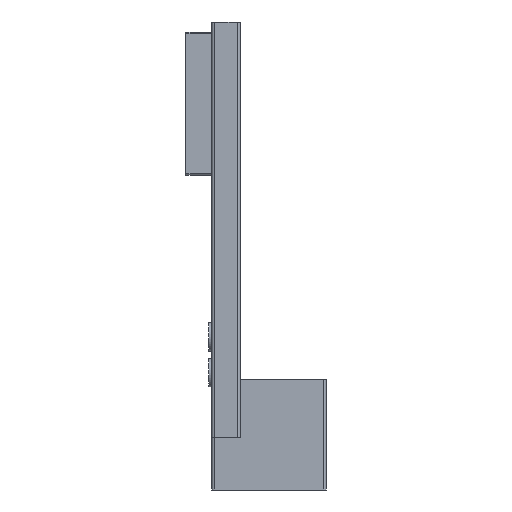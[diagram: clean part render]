
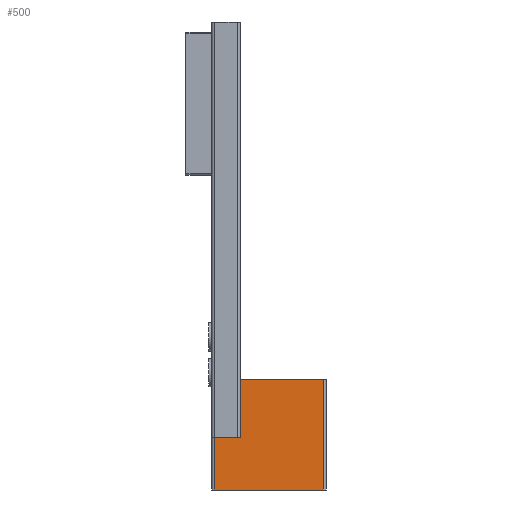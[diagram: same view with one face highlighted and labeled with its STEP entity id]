
A CAD part, left-side view. The second image highlights one B-rep face of the part: STEP entity #500.
In plain terms, the highlighted planar face has unit normal (-1, 0, 0).
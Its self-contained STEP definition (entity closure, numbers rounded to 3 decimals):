
#24 = VERTEX_POINT('',#25);
#25 = CARTESIAN_POINT('',(-32.,14.,17.));
#72 = VERTEX_POINT('',#73);
#73 = CARTESIAN_POINT('',(-32.,14.,21.));
#79 = EDGE_CURVE('',#72,#24,#80,.T.);
#80 = LINE('',#81,#82);
#81 = CARTESIAN_POINT('',(-32.,14.,15.15));
#82 = VECTOR('',#83,1.);
#83 = DIRECTION('',(0.,0.,-1.));
#431 = EDGE_CURVE('',#24,#432,#434,.T.);
#432 = VERTEX_POINT('',#433);
#433 = CARTESIAN_POINT('',(-32.,15.8,17.));
#434 = LINE('',#435,#436);
#435 = CARTESIAN_POINT('',(-32.,15.4,17.));
#436 = VECTOR('',#437,1.);
#437 = DIRECTION('',(0.,1.,0.));
#500 = ADVANCED_FACE('',(#501),#535,.F.);
#501 = FACE_BOUND('',#502,.F.);
#502 = EDGE_LOOP('',(#503,#513,#519,#520,#521,#529));
#503 = ORIENTED_EDGE('',*,*,#504,.F.);
#504 = EDGE_CURVE('',#505,#507,#509,.T.);
#505 = VERTEX_POINT('',#506);
#506 = CARTESIAN_POINT('',(-32.,15.8,13.3));
#507 = VERTEX_POINT('',#508);
#508 = CARTESIAN_POINT('',(-32.,8.2,13.3));
#509 = LINE('',#510,#511);
#510 = CARTESIAN_POINT('',(-32.,15.8,13.3));
#511 = VECTOR('',#512,1.);
#512 = DIRECTION('',(0.,-1.,0.));
#513 = ORIENTED_EDGE('',*,*,#514,.T.);
#514 = EDGE_CURVE('',#505,#432,#515,.T.);
#515 = LINE('',#516,#517);
#516 = CARTESIAN_POINT('',(-32.,15.8,13.3));
#517 = VECTOR('',#518,1.);
#518 = DIRECTION('',(0.,0.,1.));
#519 = ORIENTED_EDGE('',*,*,#431,.F.);
#520 = ORIENTED_EDGE('',*,*,#79,.F.);
#521 = ORIENTED_EDGE('',*,*,#522,.T.);
#522 = EDGE_CURVE('',#72,#523,#525,.T.);
#523 = VERTEX_POINT('',#524);
#524 = CARTESIAN_POINT('',(-32.,8.2,21.));
#525 = LINE('',#526,#527);
#526 = CARTESIAN_POINT('',(-32.,15.8,21.));
#527 = VECTOR('',#528,1.);
#528 = DIRECTION('',(0.,-1.,0.));
#529 = ORIENTED_EDGE('',*,*,#530,.F.);
#530 = EDGE_CURVE('',#507,#523,#531,.T.);
#531 = LINE('',#532,#533);
#532 = CARTESIAN_POINT('',(-32.,8.2,13.3));
#533 = VECTOR('',#534,1.);
#534 = DIRECTION('',(0.,0.,1.));
#535 = PLANE('',#536);
#536 = AXIS2_PLACEMENT_3D('',#537,#538,#539);
#537 = CARTESIAN_POINT('',(-32.,15.8,13.3));
#538 = DIRECTION('',(1.,0.,0.));
#539 = DIRECTION('',(0.,-1.,0.));
